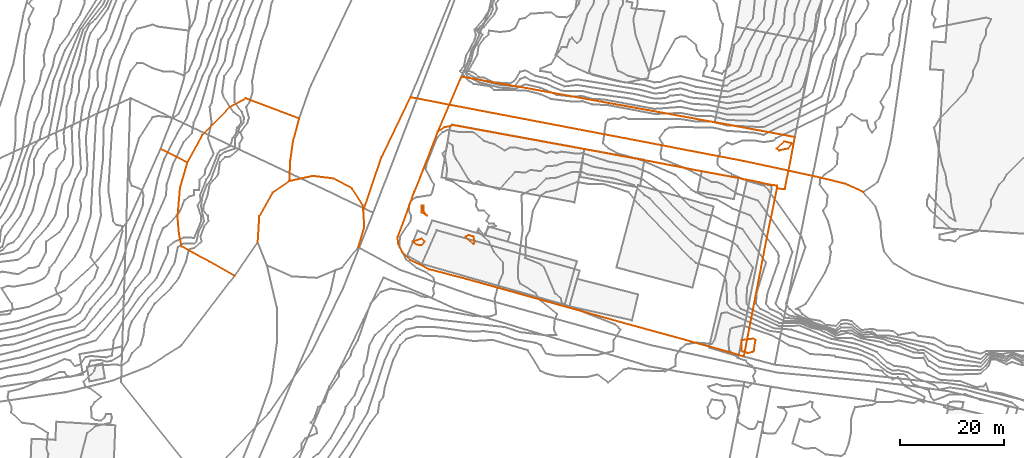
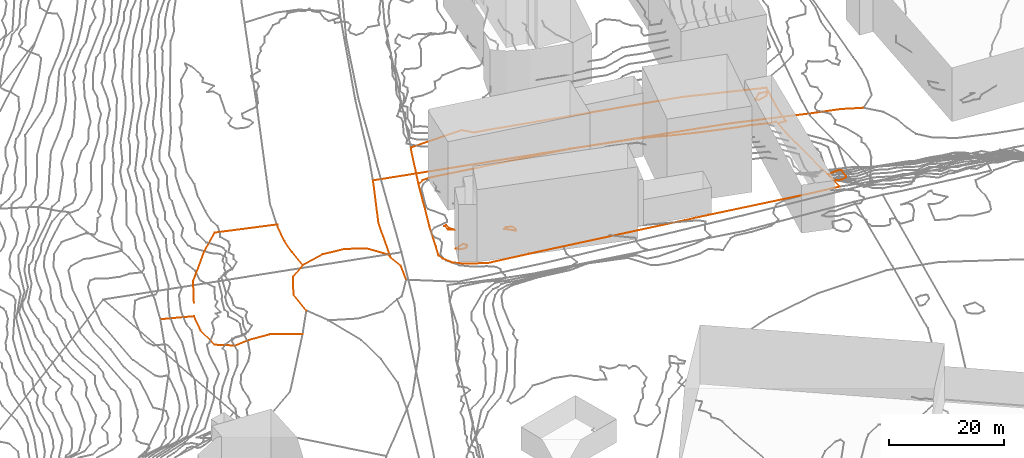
# Not in any storey, part 223 of 419: 16 proxies.
"""IFC2X3 model written with IfcOpenShell, lengths in metres."""

from ifc_helpers import new_model, entity, si_unit, frame, origin_with_axes, place, context, subcontext, project, element, save


model = new_model("IFC2X3")

# Units and contexts
model_context = context("Model", 3, precision=1e-05, world=origin_with_axes())
body_context = subcontext(model_context, "Body", "Model", "MODEL_VIEW")
ifc_project = project(units=[si_unit("AREAUNIT", "SQUARE_METRE"), si_unit("LENGTHUNIT", "METRE")], contexts=[model_context])

# Proxies
proxy_1_placement = place(None, frame((743.7920204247, 388.8976909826, 75.8), z_axis=(0.0, 0.0, 1.0), x_axis=(1.0, 0.0, 0.0)))
element("IfcBuildingElementProxy", 1, at=proxy_1_placement, Name="Route 202", ObjectType="NOTDEFINED", context=body_context, shape_type="GeometricCurveSet", body=[
    entity("IfcGeometricCurveSet", [entity("IfcPolyline", [entity("IfcCartesianPoint", [0.0, 0.0, 0.0]), entity("IfcCartesianPoint", [3.5, 10.2999999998, -0.1]), entity("IfcCartesianPoint", [9.1000000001, 21.9000000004, -0.1])])]),
])
proxy_2_placement = place(None, frame((729.4920204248, 394.5976909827, 75.8), z_axis=(0.0, 0.0, 1.0), x_axis=(1.0, 0.0, 0.0)))
element("IfcBuildingElementProxy", 2, at=proxy_2_placement, Name="Route 220", ObjectType="NOTDEFINED", context=body_context, shape_type="GeometricCurveSet", body=[
    entity("IfcGeometricCurveSet", [entity("IfcPolyline", [entity("IfcCartesianPoint", [1.9, 12.0999999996, 0.2]), entity("IfcCartesianPoint", [0.7, 7.5999999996, 0.2]), entity("IfcCartesianPoint", [0.2, 4.0, 0.2]), entity("IfcCartesianPoint", [0.0, 0.0, 0.0])])]),
])
proxy_3_placement = place(None, frame((723.3920204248, 382.7976909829, 75.5), z_axis=(0.0, 0.0, 1.0), x_axis=(1.0, 0.0, 0.0)))
element("IfcBuildingElementProxy", 3, at=proxy_3_placement, Name="Route 221", ObjectType="NOTDEFINED", context=body_context, shape_type="GeometricCurveSet", body=[
    entity("IfcGeometricCurveSet", [entity("IfcPolyline", [entity("IfcCartesianPoint", [6.1, 11.7999999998, 0.3]), entity("IfcCartesianPoint", [2.8999999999, 9.5999999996, 0.3]), entity("IfcCartesianPoint", [0.2999999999, 5.0, 0.2]), entity("IfcCartesianPoint", [0.0, 0.0, 0.0])])]),
])
proxy_4_placement = place(None, frame((707.8920204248, 387.6976909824, 70.7), z_axis=(0.0, 0.0, 1.0), x_axis=(1.0, 0.0, 0.0)))
element("IfcBuildingElementProxy", 4, at=proxy_4_placement, Name="Route 239", ObjectType="NOTDEFINED", context=body_context, shape_type="GeometricCurveSet", body=[
    entity("IfcGeometricCurveSet", [entity("IfcPolyline", [entity("IfcCartesianPoint", [1.8999999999, 10.5, -1.0]), entity("IfcCartesianPoint", [0.5, 5.7000000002, -0.6]), entity("IfcCartesianPoint", [0.0, 0.0, 0.0]), entity("IfcCartesianPoint", [0.2999999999, -3.2999999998, 1.8]), entity("IfcCartesianPoint", [0.7999999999, -5.7000000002, 3.0]), entity("IfcCartesianPoint", [2.8999999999, -6.8999999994, 4.2]), entity("IfcCartesianPoint", [6.1, -8.5999999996, 5.3]), entity("IfcCartesianPoint", [11.0, -11.3999999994, 5.3])])]),
])
proxy_5_placement = place(None, frame((752.8920204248, 410.7976909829, 75.7), z_axis=(0.0, 0.0, 1.0), x_axis=(1.0, 0.0, 0.0)))
element("IfcBuildingElementProxy", 5, at=proxy_5_placement, Name="Route 247", ObjectType="NOTDEFINED", context=body_context, shape_type="GeometricCurveSet", body=[
    entity("IfcGeometricCurveSet", [entity("IfcPolyline", [entity("IfcCartesianPoint", [0.0, 0.0, 0.0]), entity("IfcCartesianPoint", [64.2999999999, -12.3000000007, -3.0]), entity("IfcCartesianPoint", [78.2, -15.3000000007, -4.0]), entity("IfcCartesianPoint", [84.0, -16.7000000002, -4.2]), entity("IfcCartesianPoint", [87.5, -18.3000000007, -4.2])])]),
])
proxy_6_placement = place(None, frame((742.7920204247, 381.7976909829, 75.8), z_axis=(0.0, 0.0, 1.0), x_axis=(1.0, 0.0, 0.0)))
element("IfcBuildingElementProxy", 6, at=proxy_6_placement, Name="Route 265", ObjectType="NOTDEFINED", context=body_context, shape_type="GeometricCurveSet", body=[
    entity("IfcGeometricCurveSet", [entity("IfcPolyline", [entity("IfcCartesianPoint", [0.0, 0.0, 0.0]), entity("IfcCartesianPoint", [1.2000000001, 4.0, 0.1]), entity("IfcCartesianPoint", [1.0, 7.0999999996, 0.0])])]),
])
proxy_7_placement = place(None, frame((709.7920204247, 398.1976909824, 72.497600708), z_axis=(0.0, 0.0, 1.0), x_axis=(1.0, 0.0, 0.0)))
element("IfcBuildingElementProxy", 7, at=proxy_7_placement, Name="Route 278", ObjectType="NOTDEFINED", context=body_context, shape_type="GeometricCurveSet", body=[
    entity("IfcGeometricCurveSet", [entity("IfcPolyline", [entity("IfcCartesianPoint", [0.0, 0.0, 0.0]), entity("IfcCartesianPoint", [2.9, 5.2999999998, 0.3794997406]), entity("IfcCartesianPoint", [8.2000000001, 10.7000000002, 1.5093992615]), entity("IfcCartesianPoint", [11.3, 12.4000000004, 3.4033987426]), entity("IfcCartesianPoint", [21.6000000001, 8.5, 3.8982014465])])]),
])
proxy_8_placement = place(None, frame((704.5920204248, 400.7976909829, 69.3), z_axis=(0.0, 0.0, 1.0), x_axis=(1.0, 0.0, 0.0)))
element("IfcBuildingElementProxy", 8, at=proxy_8_placement, Name="Route 281", ObjectType="NOTDEFINED", context=body_context, shape_type="GeometricCurveSet", body=[
    entity("IfcGeometricCurveSet", [entity("IfcPolyline", [entity("IfcCartesianPoint", [0.0, 0.0, 0.0]), entity("IfcCartesianPoint", [5.2, -2.6000000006, 0.4])])]),
])
proxy_9_placement = place(None, frame((729.4920204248, 394.5976909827, 75.8), z_axis=(0.0, 0.0, 1.0), x_axis=(1.0, 0.0, 0.0)))
element("IfcBuildingElementProxy", 9, at=proxy_9_placement, Name="Route 298", ObjectType="NOTDEFINED", context=body_context, shape_type="GeometricCurveSet", body=[
    entity("IfcGeometricCurveSet", [entity("IfcPolyline", [entity("IfcCartesianPoint", [14.2999999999, -5.7000000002, 0.0]), entity("IfcCartesianPoint", [14.2, -4.6000000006, 0.1]), entity("IfcCartesianPoint", [12.1, -1.4000000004, 0.1]), entity("IfcCartesianPoint", [8.6, 0.5, 0.1]), entity("IfcCartesianPoint", [4.5, 1.0, 0.1]), entity("IfcCartesianPoint", [0.0, 0.0, 0.0])])]),
])
proxy_10_placement = place(None, frame((750.4020204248, 383.8076909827, 77.0301009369), z_axis=(0.0, 0.0, 1.0), x_axis=(1.0, 0.0, 0.0)))
element("IfcBuildingElementProxy", 10, at=proxy_10_placement, Name="Cadastre 98", ObjectType="NOTDEFINED", context=body_context, shape_type="GeometricCurveSet", body=[
    entity("IfcGeometricCurveSet", [entity("IfcPolyline", [entity("IfcCartesianPoint", [66.9099999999, -23.1100000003, 5.1754186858]), entity("IfcCartesianPoint", [62.9299999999, -21.9199999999, 4.6968666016]), entity("IfcCartesianPoint", [44.45, -16.8399999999, 3.2711088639]), entity("IfcCartesianPoint", [13.38, -8.1399999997, 0.6234837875]), entity("IfcCartesianPoint", [6.74, -6.4199999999, 0.099334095]), entity("IfcCartesianPoint", [6.13, -6.2599999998, 0.0551092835]), entity("IfcCartesianPoint", [2.4399999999, -4.4400000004, 0.1280218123]), entity("IfcCartesianPoint", [0.96, -3.0599999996, 0.0759135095]), entity("IfcCartesianPoint", [0.14, -1.2300000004, 0.0667617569]), entity("IfcCartesianPoint", [0.0, 0.0, 0.0]), entity("IfcCartesianPoint", [1.09, 2.7800000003, -0.1633187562]), entity("IfcCartesianPoint", [3.23, 8.7199999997, -0.3002545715]), entity("IfcCartesianPoint", [4.36, 11.46, -0.3561634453]), entity("IfcCartesianPoint", [7.7899999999, 20.3600000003, -0.0492402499]), entity("IfcCartesianPoint", [9.08, 21.2299999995, -0.0766382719]), entity("IfcCartesianPoint", [10.1699999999, 21.4000000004, -0.2301506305]), entity("IfcCartesianPoint", [10.45, 21.5599999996, -0.331968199]), entity("IfcCartesianPoint", [10.61, 21.6399999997, -0.3585682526]), entity("IfcCartesianPoint", [36.11, 16.96, -0.3385216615]), entity("IfcCartesianPoint", [47.6699999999, 14.8399999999, -1.029202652]), entity("IfcCartesianPoint", [55.8099999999, 13.2599999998, -2.0024490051]), entity("IfcCartesianPoint", [58.76, 12.6900000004, -2.3088988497]), entity("IfcCartesianPoint", [65.86, 11.3700000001, -2.8920285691]), entity("IfcCartesianPoint", [66.99, 11.1299999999, -2.957059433]), entity("IfcCartesianPoint", [68.49, 10.8499999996, -3.0007004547]), entity("IfcCartesianPoint", [72.1899999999, 10.0599999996, -3.3489008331]), entity("IfcCartesianPoint", [73.3099999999, 9.9199999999, -3.3204675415]), entity("IfcCartesianPoint", [73.3099999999, 9.3600000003, -3.3451907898]), entity("IfcCartesianPoint", [71.38, -0.0499999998, -1.0908010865]), entity("IfcCartesianPoint", [66.9099999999, -23.1100000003, 5.1754186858])])]),
])
proxy_11_placement = place(None, frame((758.1920204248, 404.167690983, 76.980860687), z_axis=(0.0, 0.0, 1.0), x_axis=(1.0, 0.0, 0.0)))
element("IfcBuildingElementProxy", 11, at=proxy_11_placement, Name="Cadastre 99", ObjectType="NOTDEFINED", context=body_context, shape_type="GeometricCurveSet", body=[
    entity("IfcGeometricCurveSet", [entity("IfcPolyline", [entity("IfcCartesianPoint", [65.52, -11.0, -3.2959505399]), entity("IfcCartesianPoint", [65.52, -10.4400000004, -3.2712272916]), entity("IfcCartesianPoint", [64.4, -10.3000000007, -3.2996605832]), entity("IfcCartesianPoint", [60.7000000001, -9.5100000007, -2.9514602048]), entity("IfcCartesianPoint", [59.2000000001, -9.2300000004, -2.9078191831]), entity("IfcCartesianPoint", [58.0700000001, -8.9900000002, -2.8427883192]), entity("IfcCartesianPoint", [50.9700000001, -7.6699999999, -2.2596585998]), entity("IfcCartesianPoint", [48.02, -7.1000000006, -1.9532087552]), entity("IfcCartesianPoint", [39.88, -5.5200000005, -0.9799624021]), entity("IfcCartesianPoint", [28.3200000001, -3.4000000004, -0.2892814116]), entity("IfcCartesianPoint", [2.8200000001, 1.2799999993, -0.3093280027]), entity("IfcCartesianPoint", [2.66, 1.1999999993, -0.2827279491]), entity("IfcCartesianPoint", [2.38, 1.04, -0.1809103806]), entity("IfcCartesianPoint", [1.29, 0.8699999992, -0.027398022]), entity("IfcCartesianPoint", [0.0, 0.0, 0.0]), entity("IfcCartesianPoint", [4.29, 10.0099999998, -0.2808405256]), entity("IfcCartesianPoint", [4.5800000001, 10.6099999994, -0.2028013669]), entity("IfcCartesianPoint", [13.7300000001, 8.9399999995, 1.2625286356]), entity("IfcCartesianPoint", [15.99, 8.6099999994, 0.1838076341]), entity("IfcCartesianPoint", [18.3500000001, 8.1699999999, 0.121378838]), entity("IfcCartesianPoint", [53.51, 1.79, -1.3363754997]), entity("IfcCartesianPoint", [68.9700000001, -1.0600000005, -3.0245731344]), entity("IfcCartesianPoint", [68.0900000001, -5.8800000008, -3.5871839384]), entity("IfcCartesianPoint", [67.2000000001, -10.2700000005, -3.3858602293]), entity("IfcCartesianPoint", [67.03, -11.1500000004, -3.314299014]), entity("IfcCartesianPoint", [65.52, -11.0, -3.2959505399])])]),
])
proxy_12_placement = place(None, frame((823.6545114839, 400.8976909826, 74.0), z_axis=(0.0, 0.0, 1.0), x_axis=(1.0, 0.0, 0.0)))
element("IfcBuildingElementProxy", 12, at=proxy_12_placement, Name="Contour 74.0 m", ObjectType="NOTDEFINED", context=body_context, shape_type="GeometricCurveSet", body=[
    entity("IfcGeometricCurveSet", [entity("IfcPolyline", [entity("IfcCartesianPoint", [2.1874612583, 0.0, 0.0]), entity("IfcCartesianPoint", [0.4375089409, -0.3684147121, 0.0]), entity("IfcCartesianPoint", [0.0, 0.0, 0.0]), entity("IfcCartesianPoint", [1.4375089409, 1.3571389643, 0.0]), entity("IfcCartesianPoint", [3.0089530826, 1.0, 0.0]), entity("IfcCartesianPoint", [2.1874612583, 0.0, 0.0])])]),
])
proxy_13_placement = place(None, frame((755.0205762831, 389.8976909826, 78.0), z_axis=(0.0, 0.0, 1.0), x_axis=(1.0, 0.0, 0.0)))
element("IfcBuildingElementProxy", 13, at=proxy_13_placement, Name="Contour 78.0 m", ObjectType="NOTDEFINED", context=body_context, shape_type="GeometricCurveSet", body=[
    entity("IfcGeometricCurveSet", [entity("IfcPolyline", [entity("IfcCartesianPoint", [1.071458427, -2.0, 0.0]), entity("IfcCartesianPoint", [0.0714441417, -1.3334181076, 0.0]), entity("IfcCartesianPoint", [0.0, 0.0, 0.0]), entity("IfcCartesianPoint", [0.4048622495, 0.0, 0.0]), entity("IfcCartesianPoint", [0.4048622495, -1.0, 0.0]), entity("IfcCartesianPoint", [1.071458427, -2.0, 0.0])])]),
])
proxy_14_placement = place(None, frame((763.5919954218, 383.8976909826, 78.0), z_axis=(0.0, 0.0, 1.0), x_axis=(1.0, 0.0, 0.0)))
element("IfcBuildingElementProxy", 14, at=proxy_14_placement, Name="Contour 78.0 m", ObjectType="NOTDEFINED", context=body_context, shape_type="GeometricCurveSet", body=[
    entity("IfcGeometricCurveSet", [entity("IfcPolyline", [entity("IfcCartesianPoint", [1.722218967, -1.0, 0.0]), entity("IfcCartesianPoint", [1.500025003, -1.5000250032, 0.0]), entity("IfcCartesianPoint", [0.0, 0.0, 0.0]), entity("IfcCartesianPoint", [0.500025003, 0.285667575, 0.0]), entity("IfcCartesianPoint", [1.500025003, 3.3332e-05, 0.0]), entity("IfcCartesianPoint", [1.722218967, -1.0, 0.0])])]),
])
proxy_15_placement = place(None, frame((753.3419965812, 382.8976909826, 78.0), z_axis=(0.0, 0.0, 1.0), x_axis=(1.0, 0.0, 0.0)))
element("IfcBuildingElementProxy", 15, at=proxy_15_placement, Name="Contour 78.0 m", ObjectType="NOTDEFINED", context=body_context, shape_type="GeometricCurveSet", body=[
    entity("IfcGeometricCurveSet", [entity("IfcPolyline", [entity("IfcCartesianPoint", [2.2794197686, 0.0, 0.0]), entity("IfcCartesianPoint", [1.7500238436, -0.642833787, 0.0]), entity("IfcCartesianPoint", [0.7500238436, -0.5999847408, 0.0]), entity("IfcCartesianPoint", [0.0, 0.0, 0.0]), entity("IfcCartesianPoint", [1.7500238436, 0.642833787, 0.0]), entity("IfcCartesianPoint", [2.2794197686, 0.0, 0.0])])]),
])
proxy_16_placement = place(None, frame((816.8844716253, 361.8976909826, 83.0), z_axis=(0.0, 0.0, 1.0), x_axis=(1.0, 0.0, 0.0)))
element("IfcBuildingElementProxy", 16, at=proxy_16_placement, Name="Contour 83.0 m", ObjectType="NOTDEFINED", context=body_context, shape_type="GeometricCurveSet", body=[
    entity("IfcGeometricCurveSet", [entity("IfcPolyline", [entity("IfcCartesianPoint", [2.3666381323, 0.0, 0.0]), entity("IfcCartesianPoint", [2.2075487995, -0.2799987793, 0.0]), entity("IfcCartesianPoint", [1.2075487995, -0.5238083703, 0.0]), entity("IfcCartesianPoint", [0.2075487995, -0.1896556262, 0.0]), entity("IfcCartesianPoint", [0.0, 0.0, 0.0]), entity("IfcCartesianPoint", [0.0325502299, 2.0, 0.0]), entity("IfcCartesianPoint", [2.2075487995, 2.2682917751, 0.0]), entity("IfcCartesianPoint", [2.6658887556, 2.0, 0.0]), entity("IfcCartesianPoint", [2.3666381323, 0.0, 0.0])])]),
])

save(model, "model.ifc")
